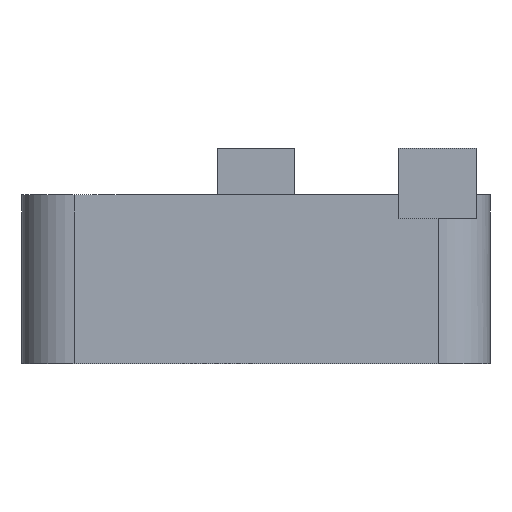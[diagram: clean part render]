
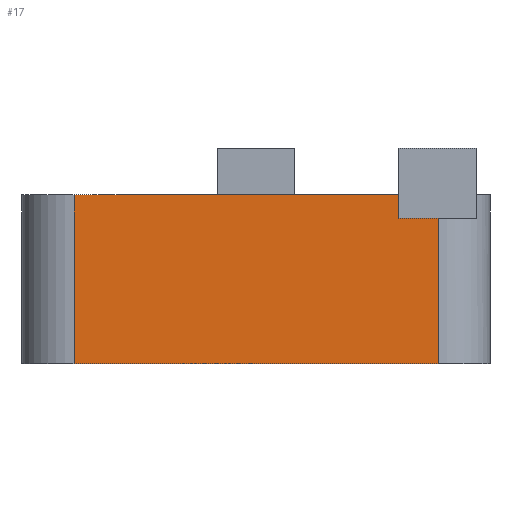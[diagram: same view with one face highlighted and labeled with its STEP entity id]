
A CAD part, left-side view. The second image highlights one B-rep face of the part: STEP entity #17.
In plain terms, the highlighted planar face has unit normal (-1, 0, 0).
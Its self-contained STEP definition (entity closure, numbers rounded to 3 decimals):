
#17 = ADVANCED_FACE('',(#18),#32,.F.);
#18 = FACE_BOUND('',#19,.F.);
#19 = EDGE_LOOP('',(#20,#55,#83,#111,#139,#167));
#20 = ORIENTED_EDGE('',*,*,#21,.F.);
#21 = EDGE_CURVE('',#22,#24,#26,.T.);
#22 = VERTEX_POINT('',#23);
#23 = CARTESIAN_POINT('',(-9.,-50.,2.6));
#24 = VERTEX_POINT('',#25);
#25 = CARTESIAN_POINT('',(-9.,-50.,8.2));
#26 = SURFACE_CURVE('',#27,(#31,#43),.PCURVE_S1.);
#27 = LINE('',#28,#29);
#28 = CARTESIAN_POINT('',(-9.,-50.,2.6));
#29 = VECTOR('',#30,1.);
#30 = DIRECTION('',(0.,0.,1.));
#31 = PCURVE('',#32,#37);
#32 = PLANE('',#33);
#33 = AXIS2_PLACEMENT_3D('',#34,#35,#36);
#34 = CARTESIAN_POINT('',(-9.,-52.,2.6));
#35 = DIRECTION('',(1.,0.,0.));
#36 = DIRECTION('',(0.,0.,1.));
#37 = DEFINITIONAL_REPRESENTATION('',(#38),#42);
#38 = LINE('',#39,#40);
#39 = CARTESIAN_POINT('',(0.,-2.));
#40 = VECTOR('',#41,1.);
#41 = DIRECTION('',(1.,0.));
#42 = ( GEOMETRIC_REPRESENTATION_CONTEXT(2) 
PARAMETRIC_REPRESENTATION_CONTEXT() REPRESENTATION_CONTEXT('2D SPACE',''
  ) );
#43 = PCURVE('',#44,#49);
#44 = CYLINDRICAL_SURFACE('',#45,2.);
#45 = AXIS2_PLACEMENT_3D('',#46,#47,#48);
#46 = CARTESIAN_POINT('',(-7.,-50.,2.6));
#47 = DIRECTION('',(0.,0.,1.));
#48 = DIRECTION('',(-1.,-0.,0.));
#49 = DEFINITIONAL_REPRESENTATION('',(#50),#54);
#50 = LINE('',#51,#52);
#51 = CARTESIAN_POINT('',(0.,0.));
#52 = VECTOR('',#53,1.);
#53 = DIRECTION('',(0.,1.));
#54 = ( GEOMETRIC_REPRESENTATION_CONTEXT(2) 
PARAMETRIC_REPRESENTATION_CONTEXT() REPRESENTATION_CONTEXT('2D SPACE',''
  ) );
#55 = ORIENTED_EDGE('',*,*,#56,.T.);
#56 = EDGE_CURVE('',#22,#57,#59,.T.);
#57 = VERTEX_POINT('',#58);
#58 = CARTESIAN_POINT('',(-9.,-36.,2.6));
#59 = SURFACE_CURVE('',#60,(#64,#71),.PCURVE_S1.);
#60 = LINE('',#61,#62);
#61 = CARTESIAN_POINT('',(-9.,-52.,2.6));
#62 = VECTOR('',#63,1.);
#63 = DIRECTION('',(0.,1.,0.));
#64 = PCURVE('',#32,#65);
#65 = DEFINITIONAL_REPRESENTATION('',(#66),#70);
#66 = LINE('',#67,#68);
#67 = CARTESIAN_POINT('',(0.,0.));
#68 = VECTOR('',#69,1.);
#69 = DIRECTION('',(0.,-1.));
#70 = ( GEOMETRIC_REPRESENTATION_CONTEXT(2) 
PARAMETRIC_REPRESENTATION_CONTEXT() REPRESENTATION_CONTEXT('2D SPACE',''
  ) );
#71 = PCURVE('',#72,#77);
#72 = PLANE('',#73);
#73 = AXIS2_PLACEMENT_3D('',#74,#75,#76);
#74 = CARTESIAN_POINT('',(-9.,-52.,2.6));
#75 = DIRECTION('',(0.,0.,1.));
#76 = DIRECTION('',(1.,0.,0.));
#77 = DEFINITIONAL_REPRESENTATION('',(#78),#82);
#78 = LINE('',#79,#80);
#79 = CARTESIAN_POINT('',(0.,0.));
#80 = VECTOR('',#81,1.);
#81 = DIRECTION('',(0.,1.));
#82 = ( GEOMETRIC_REPRESENTATION_CONTEXT(2) 
PARAMETRIC_REPRESENTATION_CONTEXT() REPRESENTATION_CONTEXT('2D SPACE',''
  ) );
#83 = ORIENTED_EDGE('',*,*,#84,.F.);
#84 = EDGE_CURVE('',#85,#57,#87,.T.);
#85 = VERTEX_POINT('',#86);
#86 = CARTESIAN_POINT('',(-9.,-36.,9.1));
#87 = SURFACE_CURVE('',#88,(#92,#99),.PCURVE_S1.);
#88 = LINE('',#89,#90);
#89 = CARTESIAN_POINT('',(-9.,-36.,9.1));
#90 = VECTOR('',#91,1.);
#91 = DIRECTION('',(0.,0.,-1.));
#92 = PCURVE('',#32,#93);
#93 = DEFINITIONAL_REPRESENTATION('',(#94),#98);
#94 = LINE('',#95,#96);
#95 = CARTESIAN_POINT('',(6.5,-16.));
#96 = VECTOR('',#97,1.);
#97 = DIRECTION('',(-1.,0.));
#98 = ( GEOMETRIC_REPRESENTATION_CONTEXT(2) 
PARAMETRIC_REPRESENTATION_CONTEXT() REPRESENTATION_CONTEXT('2D SPACE',''
  ) );
#99 = PCURVE('',#100,#105);
#100 = CYLINDRICAL_SURFACE('',#101,2.);
#101 = AXIS2_PLACEMENT_3D('',#102,#103,#104);
#102 = CARTESIAN_POINT('',(-7.,-36.,2.6));
#103 = DIRECTION('',(0.,0.,1.));
#104 = DIRECTION('',(-1.,-0.,0.));
#105 = DEFINITIONAL_REPRESENTATION('',(#106),#110);
#106 = LINE('',#107,#108);
#107 = CARTESIAN_POINT('',(-0.,6.5));
#108 = VECTOR('',#109,1.);
#109 = DIRECTION('',(-0.,-1.));
#110 = ( GEOMETRIC_REPRESENTATION_CONTEXT(2) 
PARAMETRIC_REPRESENTATION_CONTEXT() REPRESENTATION_CONTEXT('2D SPACE',''
  ) );
#111 = ORIENTED_EDGE('',*,*,#112,.F.);
#112 = EDGE_CURVE('',#113,#85,#115,.T.);
#113 = VERTEX_POINT('',#114);
#114 = CARTESIAN_POINT('',(-9.,-48.5,9.1));
#115 = SURFACE_CURVE('',#116,(#120,#127),.PCURVE_S1.);
#116 = LINE('',#117,#118);
#117 = CARTESIAN_POINT('',(-9.,-52.,9.1));
#118 = VECTOR('',#119,1.);
#119 = DIRECTION('',(0.,1.,0.));
#120 = PCURVE('',#32,#121);
#121 = DEFINITIONAL_REPRESENTATION('',(#122),#126);
#122 = LINE('',#123,#124);
#123 = CARTESIAN_POINT('',(6.5,0.));
#124 = VECTOR('',#125,1.);
#125 = DIRECTION('',(0.,-1.));
#126 = ( GEOMETRIC_REPRESENTATION_CONTEXT(2) 
PARAMETRIC_REPRESENTATION_CONTEXT() REPRESENTATION_CONTEXT('2D SPACE',''
  ) );
#127 = PCURVE('',#128,#133);
#128 = PLANE('',#129);
#129 = AXIS2_PLACEMENT_3D('',#130,#131,#132);
#130 = CARTESIAN_POINT('',(-9.,-52.,9.1));
#131 = DIRECTION('',(0.,0.,1.));
#132 = DIRECTION('',(1.,0.,0.));
#133 = DEFINITIONAL_REPRESENTATION('',(#134),#138);
#134 = LINE('',#135,#136);
#135 = CARTESIAN_POINT('',(0.,0.));
#136 = VECTOR('',#137,1.);
#137 = DIRECTION('',(0.,1.));
#138 = ( GEOMETRIC_REPRESENTATION_CONTEXT(2) 
PARAMETRIC_REPRESENTATION_CONTEXT() REPRESENTATION_CONTEXT('2D SPACE',''
  ) );
#139 = ORIENTED_EDGE('',*,*,#140,.F.);
#140 = EDGE_CURVE('',#141,#113,#143,.T.);
#141 = VERTEX_POINT('',#142);
#142 = CARTESIAN_POINT('',(-9.,-48.5,8.2));
#143 = SURFACE_CURVE('',#144,(#148,#155),.PCURVE_S1.);
#144 = LINE('',#145,#146);
#145 = CARTESIAN_POINT('',(-9.,-48.5,5.4));
#146 = VECTOR('',#147,1.);
#147 = DIRECTION('',(0.,0.,1.));
#148 = PCURVE('',#32,#149);
#149 = DEFINITIONAL_REPRESENTATION('',(#150),#154);
#150 = LINE('',#151,#152);
#151 = CARTESIAN_POINT('',(2.8,-3.5));
#152 = VECTOR('',#153,1.);
#153 = DIRECTION('',(1.,0.));
#154 = ( GEOMETRIC_REPRESENTATION_CONTEXT(2) 
PARAMETRIC_REPRESENTATION_CONTEXT() REPRESENTATION_CONTEXT('2D SPACE',''
  ) );
#155 = PCURVE('',#156,#161);
#156 = PLANE('',#157);
#157 = AXIS2_PLACEMENT_3D('',#158,#159,#160);
#158 = CARTESIAN_POINT('',(-22.,-48.5,8.2));
#159 = DIRECTION('',(0.,1.,0.));
#160 = DIRECTION('',(0.,0.,1.));
#161 = DEFINITIONAL_REPRESENTATION('',(#162),#166);
#162 = LINE('',#163,#164);
#163 = CARTESIAN_POINT('',(-2.8,13.));
#164 = VECTOR('',#165,1.);
#165 = DIRECTION('',(1.,0.));
#166 = ( GEOMETRIC_REPRESENTATION_CONTEXT(2) 
PARAMETRIC_REPRESENTATION_CONTEXT() REPRESENTATION_CONTEXT('2D SPACE',''
  ) );
#167 = ORIENTED_EDGE('',*,*,#168,.T.);
#168 = EDGE_CURVE('',#141,#24,#169,.T.);
#169 = SURFACE_CURVE('',#170,(#174,#181),.PCURVE_S1.);
#170 = LINE('',#171,#172);
#171 = CARTESIAN_POINT('',(-9.,-51.75,8.2));
#172 = VECTOR('',#173,1.);
#173 = DIRECTION('',(0.,-1.,0.));
#174 = PCURVE('',#32,#175);
#175 = DEFINITIONAL_REPRESENTATION('',(#176),#180);
#176 = LINE('',#177,#178);
#177 = CARTESIAN_POINT('',(5.6,-0.25));
#178 = VECTOR('',#179,1.);
#179 = DIRECTION('',(0.,1.));
#180 = ( GEOMETRIC_REPRESENTATION_CONTEXT(2) 
PARAMETRIC_REPRESENTATION_CONTEXT() REPRESENTATION_CONTEXT('2D SPACE',''
  ) );
#181 = PCURVE('',#182,#187);
#182 = PLANE('',#183);
#183 = AXIS2_PLACEMENT_3D('',#184,#185,#186);
#184 = CARTESIAN_POINT('',(-22.,-51.5,8.2));
#185 = DIRECTION('',(0.,0.,1.));
#186 = DIRECTION('',(1.,0.,0.));
#187 = DEFINITIONAL_REPRESENTATION('',(#188),#192);
#188 = LINE('',#189,#190);
#189 = CARTESIAN_POINT('',(13.,-0.25));
#190 = VECTOR('',#191,1.);
#191 = DIRECTION('',(0.,-1.));
#192 = ( GEOMETRIC_REPRESENTATION_CONTEXT(2) 
PARAMETRIC_REPRESENTATION_CONTEXT() REPRESENTATION_CONTEXT('2D SPACE',''
  ) );
